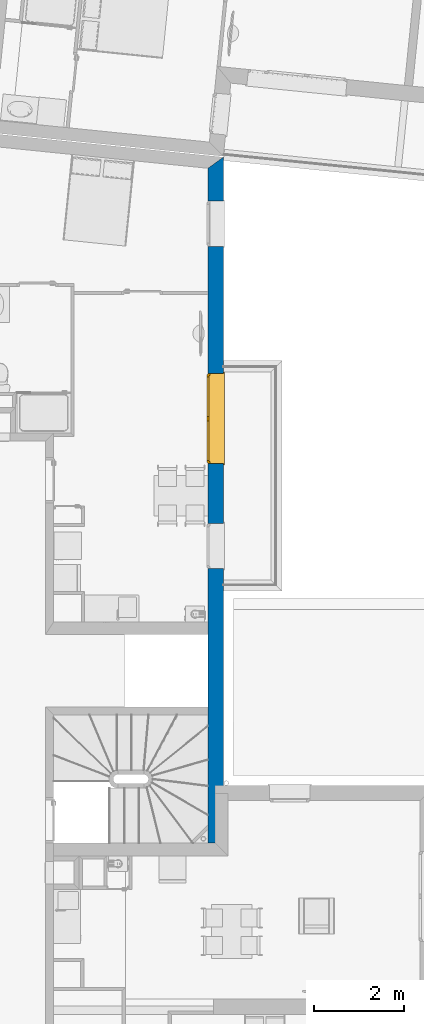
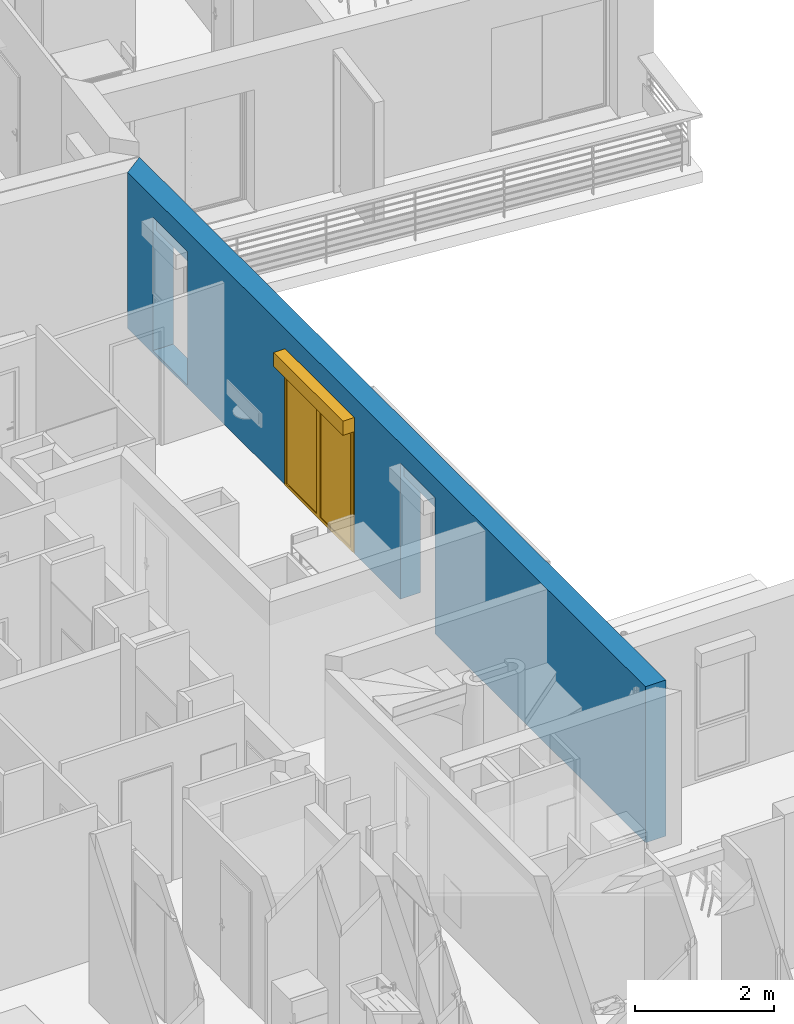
# One storey, part 32 of 164: 1 wall, 1 window, 3 openings.
"""IFC2X3 building model written with IfcOpenShell, lengths in millimetres."""

from ifc_helpers import new_model, entity, si_unit, converted_unit, derived_unit, money_unit, direction, frame, origin_with_axes, place, context, subcontext, project, spatial, polyline, outline, extrude, open_shell, faceted_brep, surface_model, source, transform, mapped, material, layer, layer_set, layer_usage, type_object, element, fill, save


model = new_model("IFC2X3")

# Units and contexts
model_context = context("Model", 3, precision=0.01, world=origin_with_axes(), true_north=direction((0.0, 1.0)))
body_context = subcontext(model_context, "Body", "Model", "MODEL_VIEW")
ifc_project = project(units=[si_unit("LENGTHUNIT", "METRE", prefix="MILLI"), si_unit("AREAUNIT", "SQUARE_METRE"), si_unit("VOLUMEUNIT", "CUBIC_METRE"), converted_unit("PLANEANGLEUNIT", "DEGREE", entity("IfcPlaneAngleMeasure", 0.0174532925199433), si_unit("PLANEANGLEUNIT", "RADIAN"), dimensions=[0, 0, 0, 0, 0, 0, 0]), money_unit("USD"), converted_unit("TIMEUNIT", "Year", entity("IfcTimeMeasure", 31557600.0), si_unit("TIMEUNIT", "SECOND"), dimensions=[0, 0, 1, 0, 0, 0, 0]), si_unit("MASSUNIT", "GRAM", prefix="KILO"), si_unit("THERMODYNAMICTEMPERATUREUNIT", "DEGREE_CELSIUS"), si_unit("LUMINOUSINTENSITYUNIT", "LUMEN"), si_unit("ENERGYUNIT", "JOULE", prefix="MEGA"), derived_unit("THERMALCONDUCTANCEUNIT", [(si_unit("POWERUNIT", "WATT"), 1), (si_unit("LENGTHUNIT", "METRE"), -1), (si_unit("THERMODYNAMICTEMPERATUREUNIT", "KELVIN"), -1)]), derived_unit("SPECIFICHEATCAPACITYUNIT", [(si_unit("ENERGYUNIT", "JOULE"), 1), (si_unit("MASSUNIT", "GRAM", prefix="KILO"), -1), (si_unit("THERMODYNAMICTEMPERATUREUNIT", "KELVIN"), -1)]), derived_unit("MASSDENSITYUNIT", [(si_unit("MASSUNIT", "GRAM", prefix="KILO"), 1), (si_unit("VOLUMEUNIT", "CUBIC_METRE"), -1)])], contexts=[model_context])

# Site, building, storey
site_placement = place(None, origin_with_axes())
site = spatial("IfcSite", under=ifc_project, at=site_placement, Name="Site", CompositionType="ELEMENT")
building_placement = place(site_placement, origin_with_axes())
building = spatial("IfcBuilding", under=site, at=building_placement, Name="Bâtiment", CompositionType="ELEMENT")
storey_placement = place(building_placement, frame((0.0, 0.0, 5750.0), z_axis=(0.0, 0.0, 1.0), x_axis=(1.0, 0.0, 0.0)))
storey = spatial("IfcBuildingStorey", under=building, at=storey_placement, Name="Etage1", CompositionType="ELEMENT", Elevation=5750.0)

# Wall, openings, window
ifc_material_1 = material(Name="Parpaing 312445824")
ifc_layer_1 = layer(ifc_material_1, 180.0, ventilated="UNKNOWN")
ifc_material_2 = material(Name="Isolant styromousse 301821074")
ifc_layer_2 = layer(ifc_material_2, 160.0, ventilated="UNKNOWN")
ifc_layer_set = layer_set([ifc_layer_1, ifc_layer_2], Name="isol int 18+16 0018356637")
ifc_layer_usage = layer_usage(ifc_layer_set, "AXIS2", "POSITIVE", 0.0)
wall_type = type_object("IfcWallType", Name="isol int 18+16 0018356637 340", PredefinedType="NOTDEFINED")
wall_placement = place(storey_placement, frame((2229653.476036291, -637226.9969240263, 0.0), z_axis=(0.0, 0.0, 1.0), x_axis=(1.956350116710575e-10, 1.0, 0.0)))
wall = element("IfcWallStandardCase", 1, at=wall_placement, inside=storey, type_object=wall_type, material=ifc_layer_usage, Name="Mur-144", context=body_context, shape_type="SweptSolid", body=[
    extrude(outline(polyline([(0.0, 0.0), (15194.46708703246, 0.0), (14947.57710369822, 340.0000000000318), (0.0, 340.0000000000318), (0.0, 0.0)])), origin_with_axes(), (0.0, 0.0, 1.0), 2750.0),
])
opening_1_placement = place(wall_placement, frame((9401.851616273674, 0.0, 0.0), z_axis=(0.0, 0.0, 1.0), x_axis=(1.0, 0.0, 0.0)))
opening_1 = element("IfcOpeningElement", 2, at=opening_1_placement, cuts=wall, Name="Fen-207", context=body_context, shape_type="Brep", body=[
    faceted_brep([(999.9999999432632, 290.000002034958, 2150.0), (999.9999999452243, 280.0000020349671, 2150.0), (1000.000000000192, -1.000000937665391, 2150.0), (1000.000000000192, -1.000000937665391, 0.0), (999.9999999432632, 290.000002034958, 0.0), (999.9999999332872, 341.0000020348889, 2150.0), (999.9999998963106, 530.0000020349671, 2150.0), (999.9999998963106, 530.0000020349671, 2400.0), (999.9999999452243, 280.0000020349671, 2400.0), (-1000.000000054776, 280.0000016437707, 2150.0), (-999.9999999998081, -1.000001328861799, 2150.0), (-999.9999999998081, -1.000001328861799, 0.0), (-1000.000000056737, 290.0000016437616, 0.0), (-1000.000000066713, 341.0000016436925, 0.0), (999.9999999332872, 341.0000020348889, 0.0), (-1000.000000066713, 341.0000016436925, 2150.0), (-1000.000000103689, 530.0000016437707, 2150.0), (-1000.000000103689, 530.0000016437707, 2400.0), (-1000.000000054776, 280.0000016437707, 2400.0), (-1000.000000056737, 290.0000016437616, 2150.0)], [[[0, 1, 2, 3, 4]], [[1, 0, 5, 6, 7, 8]], [[1, 9, 10, 2]], [[10, 11, 3, 2]], [[4, 3, 11, 12, 13, 14]], [[5, 0, 4, 14]], [[5, 15, 16, 6]], [[7, 6, 16, 17]], [[8, 7, 17, 18]], [[9, 1, 8, 18]], [[9, 19, 12, 11, 10]], [[19, 15, 13, 12]], [[15, 5, 14, 13]], [[19, 9, 18, 17, 16, 15]]]),
])
opening_2_placement = place(wall_placement, frame((13719.0374769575, 0.0, 49.99999999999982), z_axis=(0.0, 0.0, 1.0), x_axis=(1.0, 0.0, 0.0)))
element("IfcOpeningElement", 3, at=opening_2_placement, cuts=wall, Name="Fen-133", context=body_context, shape_type="Brep", body=[
    faceted_brep([(499.9999999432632, 290.0000027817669, 2100.0), (499.9999999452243, 280.0000027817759, 2100.0), (500.0000000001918, -1.000000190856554, 2100.0), (500.0000000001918, -1.000000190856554, 0.0), (499.9999999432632, 290.0000027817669, 0.0), (499.9999999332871, 341.0000027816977, 2100.0), (499.9999998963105, 530.000002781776, 2100.0), (499.9999998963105, 530.000002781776, 2350.0), (499.9999999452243, 280.0000027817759, 2350.0), (-500.0000000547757, 280.0000025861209, 2100.0), (-499.9999999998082, -1.000000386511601, 2100.0), (-499.9999999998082, -1.000000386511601, 0.0), (-500.0000000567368, 290.0000025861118, 0.0), (-500.0000000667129, 341.0000025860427, 0.0), (499.9999999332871, 341.0000027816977, 0.0), (-500.0000000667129, 341.0000025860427, 2100.0), (-500.0000001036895, 530.0000025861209, 2100.0), (-500.0000001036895, 530.0000025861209, 2350.0), (-500.0000000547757, 280.0000025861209, 2350.0), (-500.0000000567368, 290.0000025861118, 2100.0)], [[[0, 1, 2, 3, 4]], [[1, 0, 5, 6, 7, 8]], [[1, 9, 10, 2]], [[10, 11, 3, 2]], [[4, 3, 11, 12, 13, 14]], [[5, 0, 4, 14]], [[5, 15, 16, 6]], [[7, 6, 16, 17]], [[8, 7, 17, 18]], [[9, 1, 8, 18]], [[9, 19, 12, 11, 10]], [[19, 15, 13, 12]], [[15, 5, 14, 13]], [[19, 9, 18, 17, 16, 15]]]),
])
opening_3_placement = place(wall_placement, frame((6575.924083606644, 0.0, 0.0), z_axis=(0.0, 0.0, 1.0), x_axis=(1.0, 0.0, 0.0)))
element("IfcOpeningElement", 4, at=opening_3_placement, cuts=wall, Name="Fen-134", context=body_context, shape_type="Brep", body=[
    faceted_brep([(499.9999999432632, 290.0000013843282, 2150.0), (499.9999999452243, 280.0000013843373, 2150.0), (500.0000000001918, -1.000001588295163, 2150.0), (500.0000000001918, -1.000001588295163, 0.0), (499.9999999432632, 290.0000013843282, 0.0), (499.9999999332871, 341.0000013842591, 2150.0), (499.9999998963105, 530.0000013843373, 2150.0), (499.9999998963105, 530.0000013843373, 2400.0), (499.9999999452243, 280.0000013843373, 2400.0), (-500.0000000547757, 280.0000011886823, 2150.0), (-499.9999999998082, -1.000001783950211, 2150.0), (-499.9999999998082, -1.000001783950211, 0.0), (-500.0000000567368, 290.0000011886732, 0.0), (-500.0000000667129, 341.0000011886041, 0.0), (499.9999999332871, 341.0000013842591, 0.0), (-500.0000000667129, 341.0000011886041, 2150.0), (-500.0000001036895, 530.0000011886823, 2150.0), (-500.0000001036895, 530.0000011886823, 2400.0), (-500.0000000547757, 280.0000011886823, 2400.0), (-500.0000000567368, 290.0000011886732, 2150.0)], [[[0, 1, 2, 3, 4]], [[1, 0, 5, 6, 7, 8]], [[1, 9, 10, 2]], [[10, 11, 3, 2]], [[4, 3, 11, 12, 13, 14]], [[5, 0, 4, 14]], [[5, 15, 16, 6]], [[16, 17, 7, 6]], [[17, 18, 8, 7]], [[9, 1, 8, 18]], [[9, 19, 12, 11, 10]], [[19, 15, 13, 12]], [[15, 5, 14, 13]], [[19, 9, 18, 17, 16, 15]]]),
])
window_style = type_object("IfcWindowStyle", Name="Fenêtre châssis double variable 27", ConstructionType="NOTDEFINED", OperationType="DOUBLE_PANEL_VERTICAL", ParameterTakesPrecedence=False, Sizeable=False)
shared_shape = source(origin_with_axes(), body_context, "Body", "SurfaceModel", [
    surface_model("IfcShellBasedSurfaceModel", [(1000.0, -51.00000000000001, 40.00000000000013), (1000.0, -51.00000000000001, 50.00000000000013), (-1000.0, -51.00000000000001, 50.0), (-1000.0, -51.00000000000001, 40.0), (1030.0, -369.9999999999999, 28.96551724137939), (1030.0, -339.9999999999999, 30.00324289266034), (1000.0, -339.9999999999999, 30.00324289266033), (-1000.0, -339.9999999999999, 30.00324289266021), (-1030.0, -339.9999999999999, 30.00324289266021), (-1030.0, -369.9999999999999, 28.96551724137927), (1030.0, -369.9999999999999, 8.965517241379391), (-1030.0, -369.9999999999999, 8.965517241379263), (1030.0, -359.9999999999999, 18.96551724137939), (-1030.0, -359.9999999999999, 18.96551724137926)], [open_shell([[[0, 1, 2, 3]], [[4, 5, 6, 0, 3, 7, 8, 9]], [[10, 4, 9, 11]], [[12, 10, 11, 13]]])]),
    faceted_brep([(-1000.0, -60.00000000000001, 2400.0), (-997.0, -60.00000000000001, 2400.0), (-997.0, 190.0, 2400.0), (-1000.0, 190.0, 2400.0), (-1000.0, -60.00000000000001, 2150.0), (-997.0, -60.00000000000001, 2150.0), (-997.0, 190.0, 2150.0), (-1000.0, 190.0, 2150.0)], [[[0, 1, 2, 3]], [[4, 5, 1, 0]], [[1, 5, 6, 2]], [[3, 2, 6, 7]], [[0, 3, 7, 4]], [[7, 6, 5, 4]]]),
    faceted_brep([(997.0000000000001, -59.99999999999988, 2400.0), (1000.0, -59.99999999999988, 2400.0), (1000.0, 190.0000000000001, 2400.0), (997.0000000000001, 190.0000000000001, 2400.0), (997.0000000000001, -59.99999999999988, 2150.0), (1000.0, -59.99999999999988, 2150.0), (1000.0, 190.0000000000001, 2150.0), (997.0000000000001, 190.0000000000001, 2150.0)], [[[0, 1, 2, 3]], [[4, 5, 1, 0]], [[1, 5, 6, 2]], [[3, 2, 6, 7]], [[0, 3, 7, 4]], [[7, 6, 5, 4]]]),
    faceted_brep([(-997.0, -60.0, 2150.0), (997.0, -59.99999999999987, 2150.0), (997.0, -59.99999999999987, 2400.0), (-997.0, -60.0, 2400.0), (-997.0, -56.99999999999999, 2150.0), (997.0, -56.99999999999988, 2150.0), (997.0, -56.99999999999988, 2397.0), (997.0, 187.0000000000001, 2397.0), (997.0, 187.0000000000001, 2153.0), (997.0, -37.99999999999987, 2153.0), (997.0, -37.99999999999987, 2150.0), (997.0, 190.0000000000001, 2150.0), (997.0, 190.0000000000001, 2400.0), (-997.0, 190.0, 2400.0), (-997.0, 190.0, 2150.0), (-997.0, -37.99999999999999, 2150.0), (-997.0, -37.99999999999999, 2153.0), (-997.0, 187.0, 2153.0), (-997.0, 187.0, 2397.0), (-997.0, -56.99999999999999, 2397.0)], [[[0, 1, 2, 3]], [[4, 5, 1, 0]], [[1, 5, 6, 7, 8, 9, 10, 11, 12, 2]], [[3, 2, 12, 13]], [[0, 3, 13, 14, 15, 16, 17, 18, 19, 4]], [[19, 6, 5, 4]], [[18, 7, 6, 19]], [[17, 8, 7, 18]], [[16, 9, 8, 17]], [[15, 10, 9, 16]], [[14, 11, 10, 15]], [[13, 12, 11, 14]]]),
    faceted_brep([(-994.0, -40.37442957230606, 2256.419644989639), (-994.0, -41.99999999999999, 2275.0), (-994.0, -40.37442957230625, 2293.580355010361), (-994.0, -35.54711042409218, 2311.596155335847), (-994.0, -27.66471820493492, 2328.5), (-994.0, -16.96675541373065, 2343.77827423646), (-994.0, -3.778274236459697, 2356.96675541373), (-994.0, 11.5, 2367.664718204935), (-994.0, 28.40384466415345, 2375.547110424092), (-994.0, 46.41964498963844, 2380.374429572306), (-994.0, 64.99999999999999, 2382.0), (-994.0, 83.58035501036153, 2380.374429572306), (-994.0, 101.5961553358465, 2375.547110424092), (-994.0, 118.5, 2367.664718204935), (-994.0, 133.7782742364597, 2356.96675541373), (-994.0, 146.9667554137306, 2343.77827423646), (-994.0, 157.6647182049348, 2328.5), (-994.0, 165.5471104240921, 2311.596155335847), (-994.0, 170.3744295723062, 2293.580355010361), (-994.0, 171.9999999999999, 2275.0), (-994.0, 170.3744295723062, 2256.419644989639), (-994.0, 165.5471104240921, 2238.403844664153), (-994.0, 157.6647182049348, 2221.5), (-994.0, 146.9667554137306, 2206.22172576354), (-994.0, 133.7782742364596, 2193.033244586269), (-994.0, 118.4999999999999, 2182.335281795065), (-994.0, 101.5961553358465, 2174.452889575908), (-994.0, 83.58035501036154, 2169.625570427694), (-994.0, 65.00000000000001, 2168.0), (-994.0, 46.4196449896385, 2169.625570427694), (-994.0, 28.40384466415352, 2174.452889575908), (-994.0, 11.50000000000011, 2182.335281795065), (-994.0, -3.778274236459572, 2193.033244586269), (-994.0, -16.9667554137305, 2206.22172576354), (-994.0, -27.66471820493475, 2221.5), (-994.0, -35.54711042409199, 2238.403844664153), (994.0, -40.37442957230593, 2256.419644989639), (994.0, -41.99999999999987, 2275.0), (994.0, -40.37442957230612, 2293.580355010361), (994.0, -35.54711042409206, 2311.596155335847), (994.0, -27.6647182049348, 2328.5), (994.0, -16.96675541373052, 2343.77827423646), (994.0, -3.778274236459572, 2356.96675541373), (994.0, 11.50000000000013, 2367.664718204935), (994.0, 28.40384466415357, 2375.547110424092), (994.0, 46.41964498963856, 2380.374429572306), (994.0, 65.00000000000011, 2382.0), (994.0, 83.58035501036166, 2380.374429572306), (994.0, 101.5961553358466, 2375.547110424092), (994.0, 118.5000000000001, 2367.664718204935), (994.0, 133.7782742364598, 2356.96675541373), (994.0, 146.9667554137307, 2343.77827423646), (994.0, 157.664718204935, 2328.5), (994.0, 165.5471104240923, 2311.596155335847), (994.0, 170.3744295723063, 2293.580355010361), (994.0, 172.0, 2275.0), (994.0, 170.3744295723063, 2256.419644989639), (994.0, 165.5471104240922, 2238.403844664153), (994.0, 157.6647182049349, 2221.5), (994.0, 146.9667554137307, 2206.22172576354), (994.0, 133.7782742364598, 2193.033244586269), (994.0, 118.5000000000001, 2182.335281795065), (994.0, 101.5961553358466, 2174.452889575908), (994.0, 83.58035501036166, 2169.625570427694), (994.0, 65.00000000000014, 2168.0), (994.0, 46.41964498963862, 2169.625570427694), (994.0, 28.40384466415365, 2174.452889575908), (994.0, 11.50000000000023, 2182.335281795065), (994.0, -3.778274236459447, 2193.033244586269), (994.0, -16.96675541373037, 2206.22172576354), (994.0, -27.66471820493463, 2221.5), (994.0, -35.54711042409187, 2238.403844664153)], [[[0, 1, 2, 3, 4, 5, 6, 7, 8, 9, 10, 11, 12, 13, 14, 15, 16, 17, 18, 19, 20, 21, 22, 23, 24, 25, 26, 27, 28, 29, 30, 31, 32, 33, 34, 35]], [[0, 36, 37, 1]], [[1, 37, 38, 2]], [[2, 38, 39, 3]], [[3, 39, 40, 4]], [[4, 40, 41, 5]], [[5, 41, 42, 6]], [[6, 42, 43, 7]], [[7, 43, 44, 8]], [[8, 44, 45, 9]], [[9, 45, 46, 10]], [[10, 46, 47, 11]], [[11, 47, 48, 12]], [[12, 48, 49, 13]], [[13, 49, 50, 14]], [[14, 50, 51, 15]], [[15, 51, 52, 16]], [[16, 52, 53, 17]], [[17, 53, 54, 18]], [[18, 54, 55, 19]], [[19, 55, 56, 20]], [[20, 56, 57, 21]], [[21, 57, 58, 22]], [[22, 58, 59, 23]], [[23, 59, 60, 24]], [[24, 60, 61, 25]], [[25, 61, 62, 26]], [[26, 62, 63, 27]], [[27, 63, 64, 28]], [[28, 64, 65, 29]], [[29, 65, 66, 30]], [[30, 66, 67, 31]], [[31, 67, 68, 32]], [[32, 68, 69, 33]], [[33, 69, 70, 34]], [[34, 70, 71, 35]], [[35, 71, 36, 0]], [[36, 71, 70, 69, 68, 67, 66, 65, 64, 63, 62, 61, 60, 59, 58, 57, 56, 55, 54, 53, 52, 51, 50, 49, 48, 47, 46, 45, 44, 43, 42, 41, 40, 39, 38, 37]]]),
    faceted_brep([(1000.0, -34.99999999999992, 30.0), (1000.0, -34.99999999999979, 2150.0), (1000.0, -59.99999999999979, 2150.0), (1000.0, -59.99999999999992, 30.0), (975.0, -34.99999999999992, 30.0), (975.0, -34.99999999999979, 2150.0), (975.0, -37.99999999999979, 2150.0), (997.0, -37.99999999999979, 2150.0), (997.0, -56.99999999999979, 2150.0), (975.0, -56.99999999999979, 2150.0), (975.0, -59.99999999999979, 2150.0), (975.0, -59.99999999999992, 30.0), (975.0, -56.99999999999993, 30.0), (997.0, -56.99999999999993, 30.0), (997.0, -37.99999999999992, 30.0), (975.0, -37.99999999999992, 30.0)], [[[0, 1, 2, 3]], [[4, 5, 1, 0]], [[1, 5, 6, 7, 8, 9, 10, 2]], [[3, 2, 10, 11]], [[0, 3, 11, 12, 13, 14, 15, 4]], [[15, 6, 5, 4]], [[14, 7, 6, 15]], [[13, 8, 7, 14]], [[12, 9, 8, 13]], [[11, 10, 9, 12]]]),
    faceted_brep([(-1000.0, -34.99999999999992, 30.0), (-1000.0, -59.99999999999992, 30.0), (-1000.0, -59.99999999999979, 2150.0), (-1000.0, -34.99999999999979, 2150.0), (-975.0, -34.99999999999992, 30.0), (-975.0, -37.99999999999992, 30.0), (-997.0, -37.99999999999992, 30.0), (-997.0, -56.99999999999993, 30.0), (-975.0, -56.99999999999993, 30.0), (-975.0, -59.99999999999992, 30.0), (-975.0, -59.99999999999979, 2150.0), (-975.0, -56.99999999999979, 2150.0), (-997.0, -56.99999999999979, 2150.0), (-997.0, -37.99999999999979, 2150.0), (-975.0, -37.99999999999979, 2150.0), (-975.0, -34.99999999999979, 2150.0)], [[[0, 1, 2, 3]], [[0, 4, 5, 6, 7, 8, 9, 1]], [[1, 9, 10, 2]], [[3, 2, 10, 11, 12, 13, 14, 15]], [[4, 0, 3, 15]], [[5, 4, 15, 14]], [[6, 5, 14, 13]], [[7, 6, 13, 12]], [[8, 7, 12, 11]], [[9, 8, 11, 10]]]),
    faceted_brep([(997.0, -46.66666666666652, 2275.0), (997.0, -46.66666666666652, 2266.666666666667), (-997.0, -46.66666666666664, 2266.666666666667), (-997.0, -46.66666666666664, 2275.0), (997.0, -51.66666666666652, 2275.0), (997.0, -51.66666666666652, 2266.666666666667), (997.0, -49.99999999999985, 2250.0), (997.0, -44.99999999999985, 2250.0), (-997.0, -44.99999999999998, 2250.0), (-997.0, -49.99999999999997, 2250.0), (-997.0, -51.66666666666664, 2266.666666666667), (-997.0, -51.66666666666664, 2275.0)], [[[0, 1, 2, 3]], [[4, 5, 6, 7, 1, 0]], [[2, 1, 7, 8]], [[3, 2, 8, 9, 10, 11]], [[3, 11, 4, 0]], [[10, 5, 4, 11]], [[9, 6, 5, 10]], [[8, 7, 6, 9]]]),
    faceted_brep([(-997.0, -44.99999999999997, 2250.0), (997.0, -44.99999999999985, 2250.0), (997.0, -46.66666666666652, 2233.333333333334), (-997.0, -46.66666666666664, 2233.333333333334), (-997.0, -49.99999999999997, 2250.0), (997.0, -49.99999999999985, 2250.0), (997.0, -51.66666666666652, 2233.333333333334), (997.0, -51.66666666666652, 2216.666666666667), (997.0, -49.99999999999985, 2200.0), (997.0, -44.99999999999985, 2200.0), (997.0, -46.66666666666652, 2216.666666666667), (-997.0, -46.66666666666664, 2216.666666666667), (-997.0, -44.99999999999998, 2200.0), (-997.0, -49.99999999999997, 2200.0), (-997.0, -51.66666666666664, 2216.666666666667), (-997.0, -51.66666666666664, 2233.333333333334)], [[[0, 1, 2, 3]], [[4, 5, 1, 0]], [[1, 5, 6, 7, 8, 9, 10, 2]], [[3, 2, 10, 11]], [[0, 3, 11, 12, 13, 14, 15, 4]], [[15, 6, 5, 4]], [[14, 7, 6, 15]], [[13, 8, 7, 14]], [[12, 9, 8, 13]], [[11, 10, 9, 12]]]),
    faceted_brep([(-997.0, -44.99999999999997, 2200.0), (997.0, -44.99999999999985, 2200.0), (997.0, -46.66666666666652, 2183.333333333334), (-997.0, -46.66666666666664, 2183.333333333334), (-997.0, -49.99999999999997, 2200.0), (997.0, -49.99999999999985, 2200.0), (997.0, -51.66666666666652, 2183.333333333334), (997.0, -51.66666666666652, 2166.666666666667), (997.0, -49.99999999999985, 2150.000000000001), (997.0, -44.99999999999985, 2150.000000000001), (997.0, -46.66666666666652, 2166.666666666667), (-997.0, -46.66666666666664, 2166.666666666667), (-997.0, -44.99999999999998, 2150.000000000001), (-997.0, -49.99999999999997, 2150.000000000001), (-997.0, -51.66666666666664, 2166.666666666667), (-997.0, -51.66666666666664, 2183.333333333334)], [[[0, 1, 2, 3]], [[4, 5, 1, 0]], [[1, 5, 6, 7, 8, 9, 10, 2]], [[3, 2, 10, 11]], [[0, 3, 11, 12, 13, 14, 15, 4]], [[15, 6, 5, 4]], [[14, 7, 6, 15]], [[13, 8, 7, 14]], [[12, 9, 8, 13]], [[11, 10, 9, 12]]]),
    faceted_brep([(-975.0, 0.0, 2100.0), (-1000.0, 0.0, 2100.0), (-1000.0, -50.00000000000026, 2100.0), (-950.0, -50.00000000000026, 2100.0), (-950.0, -25.00000000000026, 2100.0), (-975.0, -25.00000000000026, 2100.0), (-975.0, 0.0, 50.00000000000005), (-1000.0, 0.0, 50.00000000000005), (-1000.0, -50.00000000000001, 50.00000000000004), (-950.0, -50.00000000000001, 50.00000000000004), (-950.0, -25.00000000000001, 50.00000000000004), (-975.0, -25.00000000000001, 50.00000000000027)], [[[0, 1, 2, 3, 4, 5]], [[6, 7, 1, 0]], [[1, 7, 8, 2]], [[2, 8, 9, 3]], [[4, 3, 9, 10]], [[10, 11, 5, 4]], [[5, 11, 6, 0]], [[11, 10, 9, 8, 7, 6]]]),
    faceted_brep([(950.0, -25.00000000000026, 2100.0), (950.0, -50.00000000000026, 2100.0), (1000.0, -50.00000000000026, 2100.0), (1000.0, 0.0, 2100.0), (975.0, 0.0, 2100.0), (975.0, -25.00000000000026, 2100.0), (950.0, -25.00000000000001, 50.00000000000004), (950.0, -50.00000000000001, 50.00000000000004), (1000.0, -50.00000000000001, 50.00000000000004), (1000.0, 0.0, 50.00000000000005), (975.0, 0.0, 50.00000000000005), (975.0, -25.00000000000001, 50.00000000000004)], [[[0, 1, 2, 3, 4, 5]], [[6, 7, 1, 0]], [[8, 2, 1, 7]], [[9, 3, 2, 8]], [[4, 3, 9, 10]], [[10, 11, 5, 4]], [[5, 11, 6, 0]], [[11, 10, 9, 8, 7, 6]]]),
    faceted_brep([(950.0, -25.00000000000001, 50.00000000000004), (950.0, -50.00000000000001, 50.00000000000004), (1000.0, -50.00000000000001, 50.00000000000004), (1000.0, 0.0, 50.00000000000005), (975.0, 0.0, 50.00000000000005), (975.0, -25.00000000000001, 50.00000000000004), (-950.0, -25.00000000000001, 50.00000000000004), (-950.0, -50.00000000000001, 50.00000000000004), (-1000.0, -50.00000000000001, 50.00000000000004), (-1000.0, -50.0, 0.0), (1000.0, -50.0, 0.0), (1000.0, 0.0, 0.0), (-975.0, 0.0, 24.99999999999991), (975.0, 0.0, 24.99999999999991), (-1000.0, 0.0, 0.0), (-1000.0, 0.0, 50.00000000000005), (-975.0, 0.0, 50.00000000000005), (975.0, -25.0, 24.99999999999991), (-975.0, -25.0, 24.99999999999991), (-975.0, -25.00000000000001, 50.00000000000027)], [[[0, 1, 2, 3, 4, 5]], [[6, 7, 1, 0]], [[8, 9, 10, 2, 1, 7]], [[11, 3, 2, 10]], [[12, 13, 4, 3, 11, 14, 15, 16]], [[13, 17, 5, 4]], [[5, 17, 18, 19, 6, 0]], [[19, 16, 15, 8, 7, 6]], [[15, 14, 9, 8]], [[14, 11, 10, 9]], [[12, 18, 17, 13]], [[19, 18, 12, 16]]]),
    faceted_brep([(-975.0, 0.0, 2100.0), (-1000.0, 0.0, 2100.0), (-1000.0, 0.0, 2150.0), (1000.0, 0.0, 2150.0), (1000.0, 0.0, 2100.0), (975.0, 0.0, 2100.0), (975.0, 0.0, 2125.0), (-975.0, 0.0, 2125.0), (-975.0, -25.00000000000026, 2100.0), (-950.0, -25.00000000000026, 2100.0), (-950.0, -50.00000000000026, 2100.0), (-1000.0, -50.00000000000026, 2100.0), (-1000.0, -50.00000000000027, 2150.0), (1000.0, -50.00000000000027, 2150.0), (1000.0, -50.00000000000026, 2100.0), (975.0, -25.00000000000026, 2100.0), (950.0, -50.00000000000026, 2100.0), (950.0, -25.00000000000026, 2100.0), (975.0, -25.00000000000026, 2125.0), (-975.0, -25.00000000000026, 2125.0)], [[[0, 1, 2, 3, 4, 5, 6, 7]], [[8, 9, 10, 11, 1, 0]], [[2, 1, 11, 12]], [[3, 2, 12, 13]], [[4, 3, 13, 14]], [[15, 5, 4, 14, 16, 17]], [[5, 15, 18, 6]], [[6, 18, 19, 7]], [[7, 19, 8, 0]], [[17, 9, 8, 19, 18, 15]], [[17, 16, 10, 9]], [[14, 13, 12, 11, 10, 16]]]),
    faceted_brep([(-925.0, -25.00000000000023, 2075.0), (-925.0, 24.99999999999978, 2075.0), (-975.0, 24.99999999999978, 2075.0), (-975.0, -25.00000000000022, 2075.0), (-925.0, -24.99999999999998, 75.00000000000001), (-925.0, 25.00000000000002, 75.00000000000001), (-975.0, 25.00000000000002, 75.00000000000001), (-975.0, -24.99999999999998, 75.00000000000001)], [[[0, 1, 2, 3]], [[4, 5, 1, 0]], [[1, 5, 6, 2]], [[3, 2, 6, 7]], [[0, 3, 7, 4]], [[7, 6, 5, 4]]]),
    faceted_brep([(-49.99999999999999, -25.00000000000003, 75.00000000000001), (-49.99999999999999, 24.99999999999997, 75.00000000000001), (0.0, 24.99999999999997, 75.00000000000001), (0.0, -25.00000000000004, 75.00000000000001), (-49.99999999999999, -25.00000000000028, 2075.0), (-49.99999999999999, 24.99999999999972, 2075.0), (0.0, 24.99999999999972, 2075.0), (0.0, -25.00000000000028, 2075.0)], [[[0, 1, 2, 3]], [[4, 5, 1, 0]], [[1, 5, 6, 2]], [[3, 2, 6, 7]], [[0, 3, 7, 4]], [[7, 6, 5, 4]]]),
    faceted_brep([(0.0, -25.00000000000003, 25.0), (0.0, 24.99999999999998, 25.00000000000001), (0.0, 24.99999999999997, 75.00000000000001), (0.0, -25.00000000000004, 75.00000000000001), (-975.0, -24.99999999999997, 25.0), (-975.0, 25.00000000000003, 25.00000000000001), (-975.0, 25.00000000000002, 75.00000000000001), (-925.0, 25.00000000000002, 75.00000000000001), (-49.99999999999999, 24.99999999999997, 75.00000000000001), (-49.99999999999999, -25.00000000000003, 75.00000000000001), (-925.0, -24.99999999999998, 75.00000000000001), (-975.0, -24.99999999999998, 75.00000000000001)], [[[0, 1, 2, 3]], [[4, 5, 1, 0]], [[1, 5, 6, 7, 8, 2]], [[3, 2, 8, 9]], [[0, 3, 9, 10, 11, 4]], [[11, 6, 5, 4]], [[10, 7, 6, 11]], [[9, 8, 7, 10]]]),
    faceted_brep([(-975.0, -25.00000000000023, 2125.0), (-975.0, 24.99999999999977, 2125.0), (-975.0, 24.99999999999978, 2075.0), (-975.0, -25.00000000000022, 2075.0), (0.0, -25.00000000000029, 2125.0), (0.0, 24.99999999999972, 2125.0), (0.0, 24.99999999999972, 2075.0), (-49.99999999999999, 24.99999999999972, 2075.0), (-925.0, 24.99999999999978, 2075.0), (-925.0, -25.00000000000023, 2075.0), (-49.99999999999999, -25.00000000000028, 2075.0), (0.0, -25.00000000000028, 2075.0)], [[[0, 1, 2, 3]], [[4, 5, 1, 0]], [[1, 5, 6, 7, 8, 2]], [[3, 2, 8, 9]], [[0, 3, 9, 10, 11, 4]], [[11, 6, 5, 4]], [[10, 7, 6, 11]], [[9, 8, 7, 10]]]),
    surface_model("IfcShellBasedSurfaceModel", [(-925.0, -10.00000000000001, 75.00000000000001), (-49.99999999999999, -10.00000000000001, 75.00000000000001), (-49.99999999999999, -10.00000000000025, 2075.0), (-925.0, -10.00000000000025, 2075.0)], [open_shell([[[0, 1, 2, 3]]])]),
    surface_model("IfcShellBasedSurfaceModel", [(-925.0, 9.999999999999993, 75.00000000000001), (-925.0, 9.99999999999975, 2075.0), (-49.99999999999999, 9.99999999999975, 2075.0), (-49.99999999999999, 9.999999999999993, 75.00000000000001)], [open_shell([[[0, 1, 2, 3]]])]),
    faceted_brep([(49.99999999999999, -25.00000000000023, 2075.0), (49.99999999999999, 24.99999999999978, 2075.0), (0.0, 24.99999999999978, 2075.0), (0.0, -25.00000000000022, 2075.0), (49.99999999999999, -24.99999999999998, 75.00000000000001), (49.99999999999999, 25.00000000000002, 75.00000000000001), (0.0, 25.00000000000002, 75.00000000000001), (0.0, -24.99999999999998, 75.00000000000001)], [[[0, 1, 2, 3]], [[4, 5, 1, 0]], [[1, 5, 6, 2]], [[3, 2, 6, 7]], [[0, 3, 7, 4]], [[7, 6, 5, 4]]]),
    faceted_brep([(925.0, -25.00000000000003, 75.00000000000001), (925.0, 24.99999999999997, 75.00000000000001), (975.0, 24.99999999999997, 75.00000000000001), (975.0, -25.00000000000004, 75.00000000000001), (925.0, -25.00000000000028, 2075.0), (925.0, 24.99999999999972, 2075.0), (975.0, 24.99999999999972, 2075.0), (975.0, -25.00000000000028, 2075.0)], [[[0, 1, 2, 3]], [[4, 5, 1, 0]], [[1, 5, 6, 2]], [[3, 2, 6, 7]], [[0, 3, 7, 4]], [[7, 6, 5, 4]]]),
    faceted_brep([(975.0, -25.00000000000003, 25.0), (975.0, 24.99999999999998, 25.00000000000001), (975.0, 24.99999999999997, 75.00000000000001), (975.0, -25.00000000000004, 75.00000000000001), (0.0, -24.99999999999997, 25.0), (0.0, 25.00000000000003, 25.00000000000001), (0.0, 25.00000000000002, 75.00000000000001), (49.99999999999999, 25.00000000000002, 75.00000000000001), (925.0, 24.99999999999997, 75.00000000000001), (925.0, -25.00000000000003, 75.00000000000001), (49.99999999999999, -24.99999999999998, 75.00000000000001), (0.0, -24.99999999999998, 75.00000000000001)], [[[0, 1, 2, 3]], [[4, 5, 1, 0]], [[1, 5, 6, 7, 8, 2]], [[3, 2, 8, 9]], [[0, 3, 9, 10, 11, 4]], [[11, 6, 5, 4]], [[10, 7, 6, 11]], [[9, 8, 7, 10]]]),
    faceted_brep([(0.0, -25.00000000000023, 2125.0), (0.0, 24.99999999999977, 2125.0), (0.0, 24.99999999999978, 2075.0), (0.0, -25.00000000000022, 2075.0), (975.0, -25.00000000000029, 2125.0), (975.0, 24.99999999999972, 2125.0), (975.0, 24.99999999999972, 2075.0), (925.0, 24.99999999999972, 2075.0), (49.99999999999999, 24.99999999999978, 2075.0), (49.99999999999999, -25.00000000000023, 2075.0), (925.0, -25.00000000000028, 2075.0), (975.0, -25.00000000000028, 2075.0)], [[[0, 1, 2, 3]], [[4, 5, 1, 0]], [[1, 5, 6, 7, 8, 2]], [[3, 2, 8, 9]], [[0, 3, 9, 10, 11, 4]], [[11, 6, 5, 4]], [[10, 7, 6, 11]], [[9, 8, 7, 10]]]),
    surface_model("IfcShellBasedSurfaceModel", [(49.99999999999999, -10.00000000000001, 75.00000000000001), (925.0, -10.00000000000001, 75.00000000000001), (925.0, -10.00000000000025, 2075.0), (49.99999999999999, -10.00000000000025, 2075.0)], [open_shell([[[0, 1, 2, 3]]])]),
    surface_model("IfcShellBasedSurfaceModel", [(49.99999999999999, 9.999999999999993, 75.00000000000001), (49.99999999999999, 9.99999999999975, 2075.0), (925.0, 9.99999999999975, 2075.0), (925.0, 9.999999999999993, 75.00000000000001)], [open_shell([[[0, 1, 2, 3]]])]),
])
window_placement = place(opening_1_placement, frame((-1000.000000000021, 1.13686837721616e-10, 0.0), z_axis=(0.0, 0.0, 1.0), x_axis=(1.0, 0.0, 0.0)))
window = element("IfcWindow", 5, at=window_placement, inside=storey, type_object=window_style, Name="Fen-207", OverallHeight=2150.0, OverallWidth=2000.0, context=body_context, shape_type="MappedRepresentation", body=[
    mapped(shared_shape, transform((999.9999999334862, 340.0000018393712, 0.0))),
])
fill(opening_1, window)

save(model, "model.ifc")
